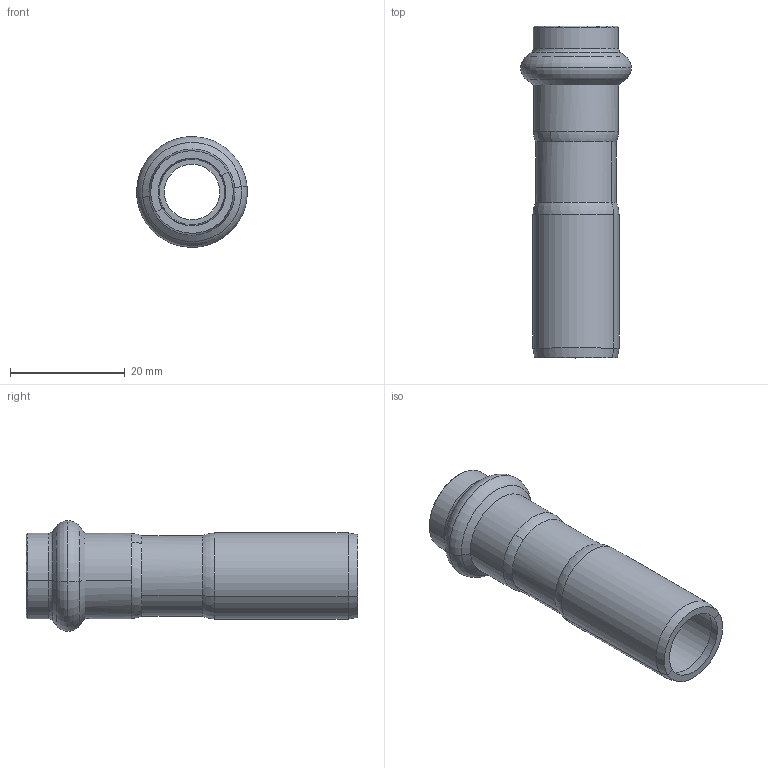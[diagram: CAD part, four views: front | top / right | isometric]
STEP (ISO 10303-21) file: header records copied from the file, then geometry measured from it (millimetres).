
FILE_DESCRIPTION(('CoCreate Modeling STEP Export'),'2;1');
FILE_NAME('8243VW1512.stp','2013-03-05T 9:18:23',(''),(''),'CoCreate Modeling STEP processor for AP214 (Solid Model)','CoCreate Modeling 17.00A 17-Jun-2010 (C) Parametric Technology GmbH','');
FILE_SCHEMA(('AUTOMOTIVE_DESIGN { 1 0 10303 214 1 1 1 1 }'));
Length unit declared in the file: millimetre
Products named in the file (1): 8243VW1512
Bounding box: 19.26 x 57.8 x 19.26 mm (x, y, z)
Volume: 3689.6 mm3; surface area: 5223.9 mm2
Topology: 1 solids, 1 shells, 55 faces, 120 edges, 68 vertices
Faces by surface type: cylinder 18, torus 18, cone 16, plane 3
Entity records: 1208 total; most frequent: ORIENTED_EDGE 240, DIRECTION 186, CARTESIAN_POINT 178, EDGE_CURVE 120, AXIS2_PLACEMENT_3D 76, VERTEX_POINT 68, EDGE_LOOP 58, FACE_OUTER_BOUND 55
